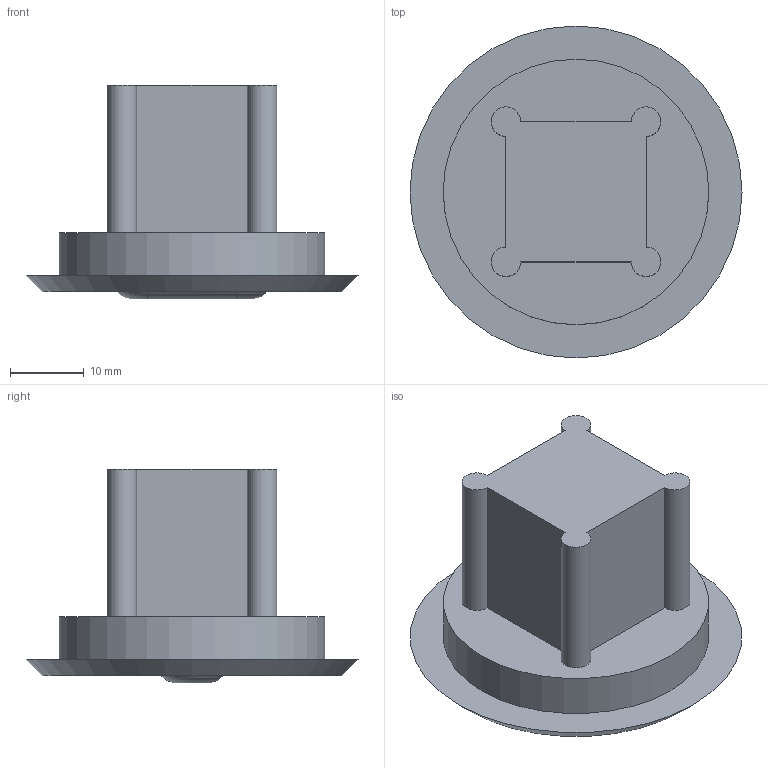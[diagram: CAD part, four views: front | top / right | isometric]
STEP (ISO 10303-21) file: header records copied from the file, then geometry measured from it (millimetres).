
FILE_DESCRIPTION(/* description */ ('STEP AP242','CAx-IF Rec.Pracs.---Representation and Presentation of Product Manufacturing Information (PMI)---4.0---2014-10-13','CAx-IF Rec.Pracs.---3D Tessellated Geometry---0.4---2014-09-14','2;1'),/* implementation_level */ '2;1');
FILE_NAME(/* name */ '102476557_(300)',/* time_stamp */ '2024-05-02T16:31:25+02:00',/* author */ ('License CC BY-ND 4.0'),/* organization */ ('CADENAS'),/* preprocessor_version */ 'ST-DEVELOPER v19.3',/* originating_system */ 'PARTsolutions',/* authorisation */ ' ');
FILE_SCHEMA (('AP242_MANAGED_MODEL_BASED_3D_ENGINEERING_MIM_LF { 1 0 10303 442 1 1 4 }'));
Length unit declared in the file: millimetre
Products named in the file (1): 102476557_(300)
Bounding box: 45 x 45 x 29 mm (x, y, z)
Volume: 15994.5 mm3; surface area: 6085.9 mm2
Topology: 1 solids, 1 shells, 21 faces, 45 edges, 30 vertices
Faces by surface type: plane 10, cylinder 7, cone 2, torus 2
Full cylindrical faces by diameter (mm): 36 x1
Entity records: 588 total; most frequent: DIRECTION 108, CARTESIAN_POINT 94, ORIENTED_EDGE 84, AXIS2_PLACEMENT_3D 44, EDGE_CURVE 42, VERTEX_POINT 30, EDGE_LOOP 28, FACE_BOUND 28
